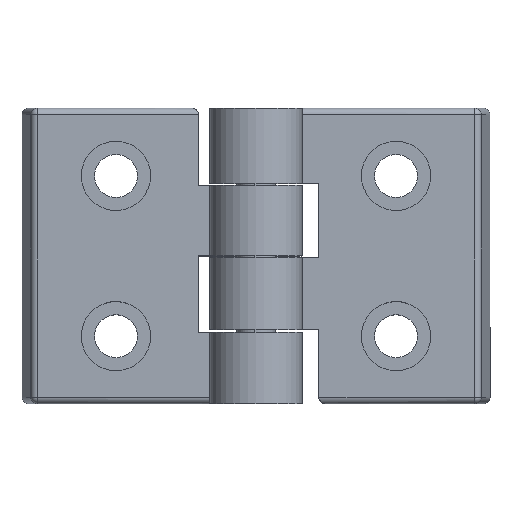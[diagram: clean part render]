
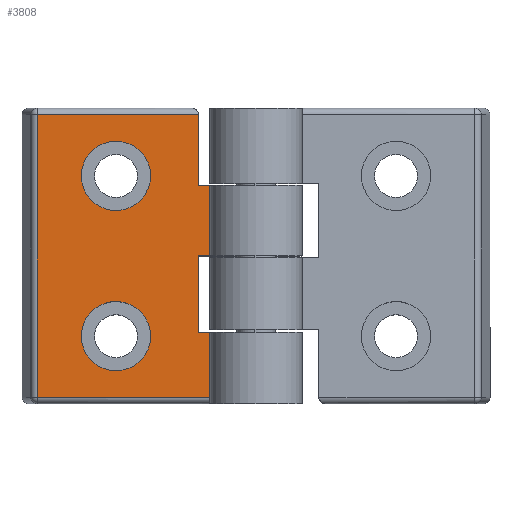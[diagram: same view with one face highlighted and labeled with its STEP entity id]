
A CAD part, top view. The second image highlights one B-rep face of the part: STEP entity #3808.
In plain terms, the highlighted planar face has unit normal (0, 0, 1).
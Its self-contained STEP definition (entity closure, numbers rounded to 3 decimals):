
#27 = EDGE_CURVE ( 'NONE', #263, #2538, #793, .T. ) ;
#45 = DIRECTION ( 'NONE',  ( -1., 0., 0. ) ) ;
#64 = DIRECTION ( 'NONE',  ( 0., 0., -1. ) ) ;
#96 = EDGE_CURVE ( 'NONE', #3054, #3590, #2150, .T. ) ;
#127 = PLANE ( 'NONE',  #3667 ) ;
#140 = EDGE_CURVE ( 'NONE', #3100, #276, #3434, .T. ) ;
#152 = CARTESIAN_POINT ( 'NONE',  ( -14.25, 22.4, 4. ) ) ;
#166 = CARTESIAN_POINT ( 'NONE',  ( 11.92, 0., 4. ) ) ;
#197 = VECTOR ( 'NONE', #440, 1000. ) ;
#263 = VERTEX_POINT ( 'NONE', #2461 ) ;
#276 = VERTEX_POINT ( 'NONE', #1882 ) ;
#292 = DIRECTION ( 'NONE',  ( 1., 0., 0. ) ) ;
#308 = DIRECTION ( 'NONE',  ( 1., 0., 0. ) ) ;
#330 = VERTEX_POINT ( 'NONE', #1572 ) ;
#354 = DIRECTION ( 'NONE',  ( 0., 0., 1. ) ) ;
#399 = AXIS2_PLACEMENT_3D ( 'NONE', #2684, #2258, #728 ) ;
#418 = EDGE_CURVE ( 'NONE', #2328, #904, #2554, .T. ) ;
#429 = LINE ( 'NONE', #615, #1998 ) ;
#440 = DIRECTION ( 'NONE',  ( 0., -1., 0. ) ) ;
#467 = EDGE_CURVE ( 'NONE', #904, #3100, #1085, .T. ) ;
#555 = VECTOR ( 'NONE', #45, 1000. ) ;
#595 = EDGE_LOOP ( 'NONE', ( #890, #1992 ) ) ;
#615 = CARTESIAN_POINT ( 'NONE',  ( 0., 0., 4. ) ) ;
#634 = CARTESIAN_POINT ( 'NONE',  ( -12.5, -10.7, 4. ) ) ;
#661 = CARTESIAN_POINT ( 'NONE',  ( -14.25, -10.7, 4. ) ) ;
#699 = CARTESIAN_POINT ( 'NONE',  ( 0., 11.6, 4. ) ) ;
#708 = CARTESIAN_POINT ( 'NONE',  ( -12.5, 0., 4. ) ) ;
#728 = DIRECTION ( 'NONE',  ( 1., 0., 0. ) ) ;
#740 = ORIENTED_EDGE ( 'NONE', *, *, #3207, .T. ) ;
#765 = ORIENTED_EDGE ( 'NONE', *, *, #3090, .T. ) ;
#793 = CIRCLE ( 'NONE', #399, 5.25 ) ;
#890 = ORIENTED_EDGE ( 'NONE', *, *, #1674, .T. ) ;
#904 = VERTEX_POINT ( 'NONE', #3524 ) ;
#908 = AXIS2_PLACEMENT_3D ( 'NONE', #1564, #354, #1757 ) ;
#967 = AXIS2_PLACEMENT_3D ( 'NONE', #2289, #2778, #2989 ) ;
#974 = VERTEX_POINT ( 'NONE', #2552 ) ;
#998 = LINE ( 'NONE', #2513, #197 ) ;
#1037 = CARTESIAN_POINT ( 'NONE',  ( 5.25, 12.15, 4. ) ) ;
#1059 = CARTESIAN_POINT ( 'NONE',  ( 5.25, -12.15, 4. ) ) ;
#1085 = LINE ( 'NONE', #166, #3712 ) ;
#1154 = VECTOR ( 'NONE', #2081, 1000. ) ;
#1202 = CIRCLE ( 'NONE', #908, 5.25 ) ;
#1209 = VECTOR ( 'NONE', #2519, 1000. ) ;
#1222 = EDGE_CURVE ( 'NONE', #330, #1370, #1776, .T. ) ;
#1286 = VECTOR ( 'NONE', #2309, 1000. ) ;
#1307 = ORIENTED_EDGE ( 'NONE', *, *, #2696, .F. ) ;
#1370 = VERTEX_POINT ( 'NONE', #708 ) ;
#1482 = CARTESIAN_POINT ( 'NONE',  ( -12.5, 0., 4. ) ) ;
#1495 = FACE_OUTER_BOUND ( 'NONE', #2967, .T. ) ;
#1564 = CARTESIAN_POINT ( 'NONE',  ( 0., 12.15, 4. ) ) ;
#1568 = VERTEX_POINT ( 'NONE', #2800 ) ;
#1572 = CARTESIAN_POINT ( 'NONE',  ( -12.5, 11.6, 4. ) ) ;
#1592 = ORIENTED_EDGE ( 'NONE', *, *, #3248, .T. ) ;
#1639 = CARTESIAN_POINT ( 'NONE',  ( -14.25, 22.4, 4. ) ) ;
#1674 = EDGE_CURVE ( 'NONE', #2538, #263, #3651, .T. ) ;
#1684 = ORIENTED_EDGE ( 'NONE', *, *, #418, .T. ) ;
#1685 = CARTESIAN_POINT ( 'NONE',  ( -14.25, 0., 4. ) ) ;
#1757 = DIRECTION ( 'NONE',  ( 1., 0., 0. ) ) ;
#1776 = LINE ( 'NONE', #1482, #2413 ) ;
#1815 = VECTOR ( 'NONE', #2162, 1000. ) ;
#1854 = LINE ( 'NONE', #699, #1209 ) ;
#1882 = CARTESIAN_POINT ( 'NONE',  ( -14.25, 21.4, 4. ) ) ;
#1960 = DIRECTION ( 'NONE',  ( 0., 0., 1. ) ) ;
#1992 = ORIENTED_EDGE ( 'NONE', *, *, #27, .T. ) ;
#1998 = VECTOR ( 'NONE', #308, 1000. ) ;
#2003 = EDGE_CURVE ( 'NONE', #1568, #330, #1854, .T. ) ;
#2010 = AXIS2_PLACEMENT_3D ( 'NONE', #3561, #64, #3461 ) ;
#2081 = DIRECTION ( 'NONE',  ( 0., -1., 0. ) ) ;
#2150 = LINE ( 'NONE', #2953, #1286 ) ;
#2162 = DIRECTION ( 'NONE',  ( 0., -1., 0. ) ) ;
#2258 = DIRECTION ( 'NONE',  ( 0., 0., -1. ) ) ;
#2289 = CARTESIAN_POINT ( 'NONE',  ( 0., 12.15, 4. ) ) ;
#2294 = VERTEX_POINT ( 'NONE', #1685 ) ;
#2295 = FACE_BOUND ( 'NONE', #2675, .T. ) ;
#2309 = DIRECTION ( 'NONE',  ( 1., 0., 0. ) ) ;
#2328 = VERTEX_POINT ( 'NONE', #2669 ) ;
#2409 = ORIENTED_EDGE ( 'NONE', *, *, #2003, .T. ) ;
#2413 = VECTOR ( 'NONE', #3017, 1000. ) ;
#2441 = DIRECTION ( 'NONE',  ( 1., 0., 0. ) ) ;
#2461 = CARTESIAN_POINT ( 'NONE',  ( -5.25, -12.15, 4. ) ) ;
#2506 = CIRCLE ( 'NONE', #967, 5.25 ) ;
#2513 = CARTESIAN_POINT ( 'NONE',  ( -12.5, 0., 4. ) ) ;
#2519 = DIRECTION ( 'NONE',  ( 1., 0., 0. ) ) ;
#2538 = VERTEX_POINT ( 'NONE', #1059 ) ;
#2552 = CARTESIAN_POINT ( 'NONE',  ( -5.25, 12.15, 4. ) ) ;
#2554 = LINE ( 'NONE', #3457, #2975 ) ;
#2561 = DIRECTION ( 'NONE',  ( 0., 1., 0. ) ) ;
#2564 = ORIENTED_EDGE ( 'NONE', *, *, #1222, .T. ) ;
#2669 = CARTESIAN_POINT ( 'NONE',  ( -12.5, -21.4, 4. ) ) ;
#2675 = EDGE_LOOP ( 'NONE', ( #3752, #3843 ) ) ;
#2684 = CARTESIAN_POINT ( 'NONE',  ( 0., -12.15, 4. ) ) ;
#2696 = EDGE_CURVE ( 'NONE', #2294, #1370, #429, .T. ) ;
#2742 = LINE ( 'NONE', #1639, #1154 ) ;
#2778 = DIRECTION ( 'NONE',  ( 0., 0., 1. ) ) ;
#2800 = CARTESIAN_POINT ( 'NONE',  ( -14.25, 11.6, 4. ) ) ;
#2904 = CARTESIAN_POINT ( 'NONE',  ( 11.92, 21.4, 4. ) ) ;
#2951 = VERTEX_POINT ( 'NONE', #1037 ) ;
#2953 = CARTESIAN_POINT ( 'NONE',  ( 0., -10.7, 4. ) ) ;
#2967 = EDGE_LOOP ( 'NONE', ( #3285, #3769, #1592, #2409, #2564, #1307, #740, #3652, #765, #1684 ) ) ;
#2975 = VECTOR ( 'NONE', #292, 1000. ) ;
#2989 = DIRECTION ( 'NONE',  ( 1., 0., 0. ) ) ;
#3017 = DIRECTION ( 'NONE',  ( 0., -1., 0. ) ) ;
#3025 = FACE_BOUND ( 'NONE', #595, .T. ) ;
#3054 = VERTEX_POINT ( 'NONE', #661 ) ;
#3079 = EDGE_CURVE ( 'NONE', #2951, #974, #1202, .T. ) ;
#3090 = EDGE_CURVE ( 'NONE', #3590, #2328, #998, .T. ) ;
#3100 = VERTEX_POINT ( 'NONE', #2904 ) ;
#3207 = EDGE_CURVE ( 'NONE', #2294, #3054, #2742, .T. ) ;
#3248 = EDGE_CURVE ( 'NONE', #276, #1568, #3533, .T. ) ;
#3285 = ORIENTED_EDGE ( 'NONE', *, *, #467, .T. ) ;
#3434 = LINE ( 'NONE', #3469, #555 ) ;
#3436 = CARTESIAN_POINT ( 'NONE',  ( 0., 0., 4. ) ) ;
#3457 = CARTESIAN_POINT ( 'NONE',  ( 12.75, -21.4, 4. ) ) ;
#3461 = DIRECTION ( 'NONE',  ( 1., 0., 0. ) ) ;
#3469 = CARTESIAN_POINT ( 'NONE',  ( -14.25, 21.4, 4. ) ) ;
#3500 = EDGE_CURVE ( 'NONE', #974, #2951, #2506, .T. ) ;
#3524 = CARTESIAN_POINT ( 'NONE',  ( 11.92, -21.4, 4. ) ) ;
#3533 = LINE ( 'NONE', #152, #1815 ) ;
#3561 = CARTESIAN_POINT ( 'NONE',  ( 0., -12.15, 4. ) ) ;
#3590 = VERTEX_POINT ( 'NONE', #634 ) ;
#3651 = CIRCLE ( 'NONE', #2010, 5.25 ) ;
#3652 = ORIENTED_EDGE ( 'NONE', *, *, #96, .T. ) ;
#3667 = AXIS2_PLACEMENT_3D ( 'NONE', #3436, #1960, #2441 ) ;
#3712 = VECTOR ( 'NONE', #2561, 1000. ) ;
#3752 = ORIENTED_EDGE ( 'NONE', *, *, #3079, .F. ) ;
#3769 = ORIENTED_EDGE ( 'NONE', *, *, #140, .T. ) ;
#3808 = ADVANCED_FACE ( 'NONE', ( #3025, #2295, #1495 ), #127, .T. ) ;
#3843 = ORIENTED_EDGE ( 'NONE', *, *, #3500, .F. ) ;
